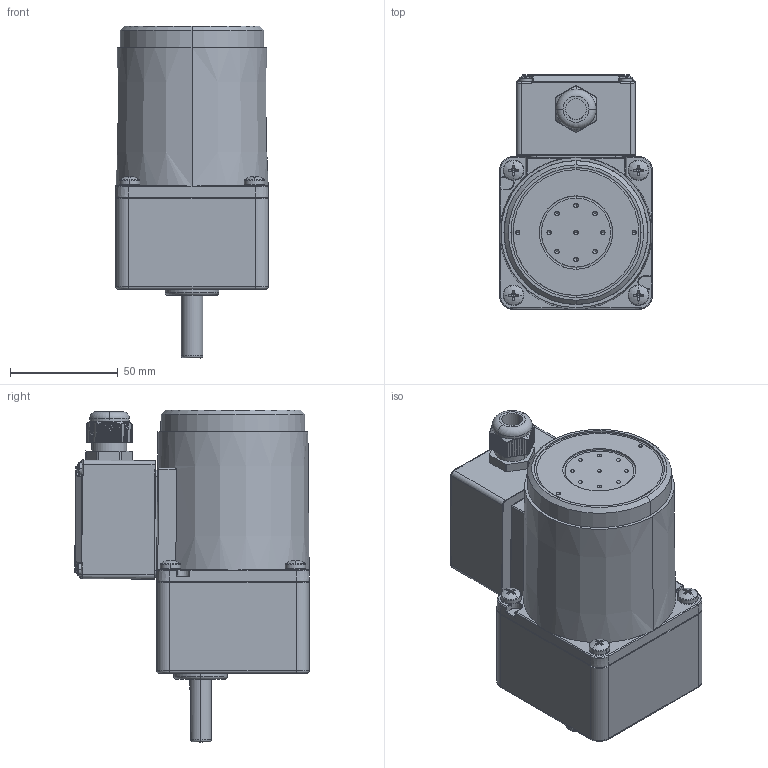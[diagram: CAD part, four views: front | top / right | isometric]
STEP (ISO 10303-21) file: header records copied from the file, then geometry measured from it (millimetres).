
FILE_DESCRIPTION((''),'2;1');
FILE_NAME('3IK15GN_ASM','2019-07-11T',('Administrator'),(''),'PRO/ENGINEER BY PARAMETRIC TECHNOLOGY CORPORATION, 2007170','PRO/ENGINEER BY PARAMETRIC TECHNOLOGY CORPORATION, 2007170','');
FILE_SCHEMA(('CONFIG_CONTROL_DESIGN'));
Length unit declared in the file: millimetre
Products named in the file (12): JK_1; PRT0001; _3GN200K_1; ASM0001_ASM_1_ASM; 70_ASM_3_ASM; 4IK25GN-CT_8; SJQ; M3; PRT0002; PRT0003; PRT0004; 3IK15GN_ASM
Assembly tree (14 placements, depth 4):
  3IK15GN_ASM
    70_ASM_3_ASM
      JK_1
      PRT0001  x4
      ASM0001_ASM_1_ASM
        _3GN200K_1
    4IK25GN-CT_8
    SJQ
    M3
    PRT0002
    PRT0003
    PRT0004
Bounding box: 70.8 x 108.75 x 154 mm (x, y, z)
Volume: 394841.6 mm3; surface area: 92329 mm2
Topology: 12 solids, 12 shells, 1880 faces, 4897 edges, 3046 vertices
Faces by surface type: cone 780, cylinder 597, plane 282, torus 149, bspline 47, sphere 25
Entity records: 46871 total; most frequent: CARTESIAN_POINT 12727, DIRECTION 7749, ORIENTED_EDGE 6980, EDGE_CURVE 3490, AXIS2_PLACEMENT_3D 3265, VERTEX_POINT 2191, CIRCLE 1921, EDGE_LOOP 1425
